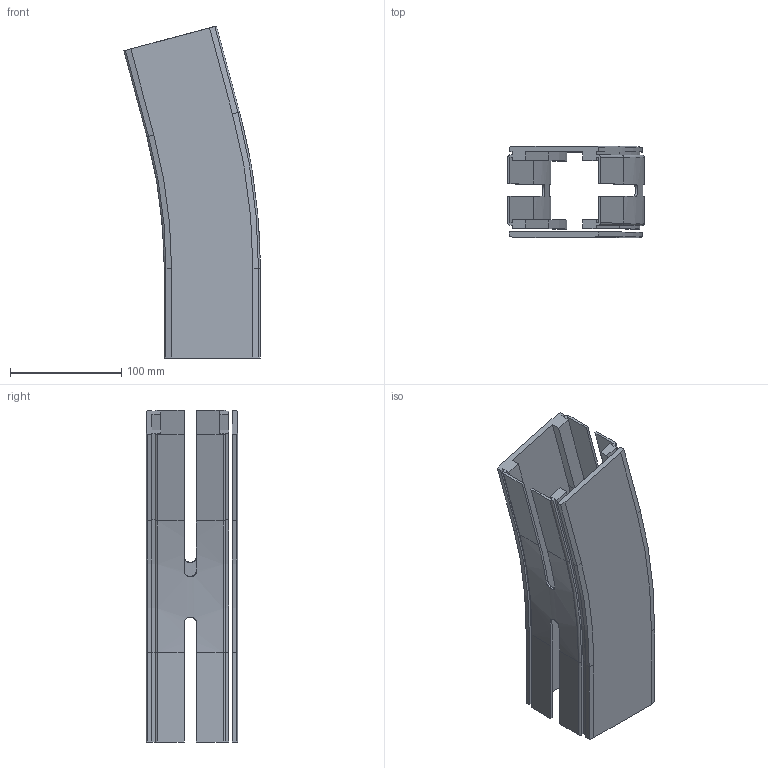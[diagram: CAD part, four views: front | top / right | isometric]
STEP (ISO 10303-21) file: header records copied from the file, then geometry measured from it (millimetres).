
FILE_DESCRIPTION(/* description */ ('GLIDKURVA SERIE 530'),/* implementation_level */ '2;1');
FILE_NAME(/* name */ '530-5375+830-2000-01.stp',/* time_stamp */ '2022-09-20T15:24:16+02:00',/* author */ ('Mathias.Dore'),/* organization */ ('CARRYLINE'),/* preprocessor_version */ 'ST-DEVELOPER v19.2',/* originating_system */ 'Autodesk Inventor 2023',/* authorisation */ '');
FILE_SCHEMA (('AUTOMOTIVE_DESIGN { 1 0 10303 214 3 1 1 }'));
Length unit declared in the file: millimetre
Products named in the file (1): 530-5375+830-2000-01
Bounding box: 122.28 x 82 x 297.81 mm (x, y, z)
Volume: 420921.4 mm3; surface area: 203157.5 mm2
Topology: 2 solids, 2 shells, 167 faces, 458 edges, 300 vertices
Faces by surface type: plane 113, cylinder 28, bspline 18, torus 4, cone 4
Entity records: 5625 total; most frequent: CARTESIAN_POINT 1332, ORIENTED_EDGE 916, DIRECTION 802, EDGE_CURVE 458, LINE 342, VECTOR 342, VERTEX_POINT 300, AXIS2_PLACEMENT_3D 230
